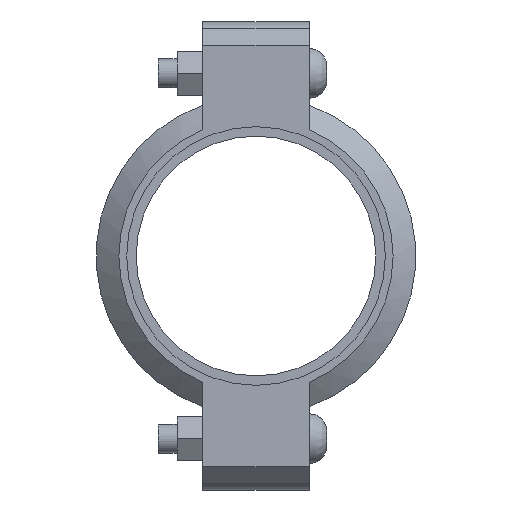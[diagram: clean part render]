
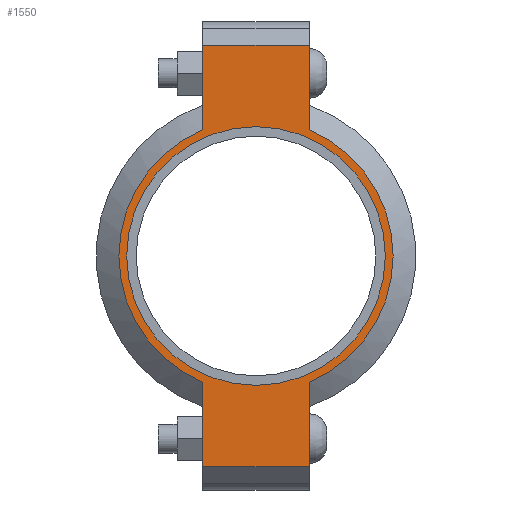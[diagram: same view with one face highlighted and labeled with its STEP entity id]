
A CAD part, left-side view. The second image highlights one B-rep face of the part: STEP entity #1550.
In plain terms, the highlighted planar face has unit normal (-1, 0, 0) as drawn and (0, 0, 1) by its records, which use the part's own axes.
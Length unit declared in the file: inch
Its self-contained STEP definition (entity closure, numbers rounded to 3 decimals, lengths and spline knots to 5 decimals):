
#174=LINE('',#2714,#267);
#182=LINE('',#2750,#275);
#189=LINE('',#2771,#282);
#198=LINE('',#2803,#291);
#199=LINE('',#2807,#292);
#200=LINE('',#2809,#293);
#267=VECTOR('',#2214,0.3937);
#275=VECTOR('',#2230,0.3937);
#282=VECTOR('',#2249,0.3937);
#291=VECTOR('',#2274,0.3937);
#292=VECTOR('',#2279,0.3937);
#293=VECTOR('',#2280,0.3937);
#349=FACE_BOUND('',#527,.T.);
#421=FACE_OUTER_BOUND('',#526,.T.);
#526=EDGE_LOOP('',(#1291,#1292,#1293,#1294,#1295,#1296,#1297,#1298));
#527=EDGE_LOOP('',(#1299));
#599=CIRCLE('',#1778,2.7815);
#625=CIRCLE('',#1837,2.95);
#626=CIRCLE('',#1838,2.95);
#691=VERTEX_POINT('',#2530);
#734=VERTEX_POINT('',#2711);
#735=VERTEX_POINT('',#2713);
#746=VERTEX_POINT('',#2745);
#747=VERTEX_POINT('',#2749);
#754=VERTEX_POINT('',#2768);
#755=VERTEX_POINT('',#2770);
#765=VERTEX_POINT('',#2806);
#766=VERTEX_POINT('',#2808);
#847=EDGE_CURVE('',#691,#691,#599,.T.);
#908=EDGE_CURVE('',#735,#734,#174,.T.);
#922=EDGE_CURVE('',#747,#746,#182,.T.);
#932=EDGE_CURVE('',#755,#754,#189,.T.);
#947=EDGE_CURVE('',#747,#734,#198,.T.);
#948=EDGE_CURVE('',#746,#755,#625,.T.);
#949=EDGE_CURVE('',#765,#754,#199,.T.);
#950=EDGE_CURVE('',#765,#766,#200,.T.);
#951=EDGE_CURVE('',#766,#735,#626,.T.);
#1291=ORIENTED_EDGE('',*,*,#947,.F.);
#1292=ORIENTED_EDGE('',*,*,#922,.T.);
#1293=ORIENTED_EDGE('',*,*,#948,.T.);
#1294=ORIENTED_EDGE('',*,*,#932,.T.);
#1295=ORIENTED_EDGE('',*,*,#949,.F.);
#1296=ORIENTED_EDGE('',*,*,#950,.T.);
#1297=ORIENTED_EDGE('',*,*,#951,.T.);
#1298=ORIENTED_EDGE('',*,*,#908,.T.);
#1299=ORIENTED_EDGE('',*,*,#847,.T.);
#1392=PLANE('',#1836);
#1550=ADVANCED_FACE('',(#421,#349),#1392,.T.);
#1778=AXIS2_PLACEMENT_3D('',#2532,#2090,#2091);
#1836=AXIS2_PLACEMENT_3D('',#2804,#2275,#2276);
#1837=AXIS2_PLACEMENT_3D('',#2805,#2277,#2278);
#1838=AXIS2_PLACEMENT_3D('',#2810,#2281,#2282);
#2090=DIRECTION('center_axis',(0.,0.,-1.));
#2091=DIRECTION('ref_axis',(1.,0.,0.));
#2214=DIRECTION('',(1.,0.,0.));
#2230=DIRECTION('',(-1.,0.,0.));
#2249=DIRECTION('',(-1.,0.,0.));
#2274=DIRECTION('',(0.,-1.,0.));
#2275=DIRECTION('center_axis',(0.,0.,1.));
#2276=DIRECTION('ref_axis',(-1.,0.,0.));
#2277=DIRECTION('center_axis',(0.,0.,1.));
#2278=DIRECTION('ref_axis',(1.,0.,0.));
#2279=DIRECTION('',(0.,1.,0.));
#2280=DIRECTION('',(1.,0.,0.));
#2281=DIRECTION('center_axis',(0.,0.,1.));
#2282=DIRECTION('ref_axis',(1.,0.,0.));
#2530=CARTESIAN_POINT('',(-2.7815,0.,1.065));
#2532=CARTESIAN_POINT('Origin',(0.,0.,1.065));
#2711=CARTESIAN_POINT('',(4.535,-1.15,1.065));
#2713=CARTESIAN_POINT('',(2.71662,-1.15,1.065));
#2714=CARTESIAN_POINT('',(5.035,-1.15,1.065));
#2745=CARTESIAN_POINT('',(2.71662,1.15,1.065));
#2749=CARTESIAN_POINT('',(4.535,1.15,1.065));
#2750=CARTESIAN_POINT('',(-5.035,1.15,1.065));
#2768=CARTESIAN_POINT('',(-4.535,1.15,1.065));
#2770=CARTESIAN_POINT('',(-2.71662,1.15,1.065));
#2771=CARTESIAN_POINT('',(-5.035,1.15,1.065));
#2803=CARTESIAN_POINT('',(4.535,-0.575,1.065));
#2804=CARTESIAN_POINT('Origin',(0.,0.,
1.065));
#2805=CARTESIAN_POINT('Origin',(0.,0.,1.065));
#2806=CARTESIAN_POINT('',(-4.535,-1.15,1.065));
#2807=CARTESIAN_POINT('',(-4.535,0.575,1.065));
#2808=CARTESIAN_POINT('',(-2.71662,-1.15,1.065));
#2809=CARTESIAN_POINT('',(5.035,-1.15,1.065));
#2810=CARTESIAN_POINT('Origin',(0.,0.,1.065));
